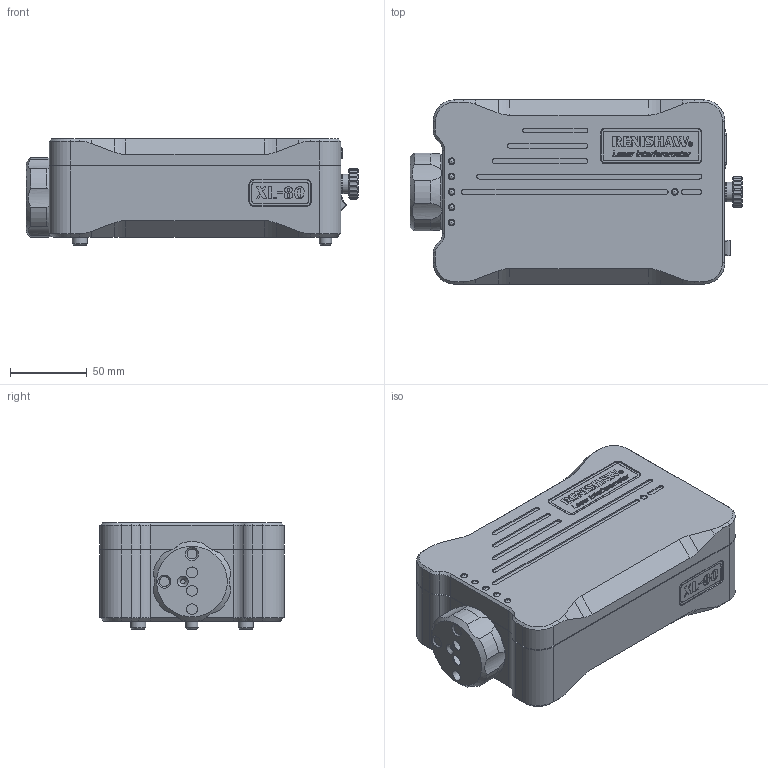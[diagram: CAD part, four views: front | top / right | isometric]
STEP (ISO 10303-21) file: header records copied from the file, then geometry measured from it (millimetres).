
FILE_DESCRIPTION(/* description */ (''),/* implementation_level */ '2;1');
FILE_NAME(/* name */ 'LA-9908-0400-A XL80 ASSEMBLY.stp',/* time_stamp */ '2010-01-27T08:35:00+00:00',/* author */ (''),/* organization */ (''),/* preprocessor_version */ 'ST-DEVELOPER v11',/* originating_system */ 'SIEMENS UGS NX 6.0',/* authorisation */ '');
FILE_SCHEMA (('AUTOMOTIVE_DESIGN { 1 0 10303 214 1 1 1 1 }'));
Products named in the file (1): mm119FB2wcnf
Bounding box: 216.26 x 120 x 69.33 mm (x, y, z)
Volume: 1388995.2 mm3; surface area: 154961.6 mm2
Topology: 3 solids, 3 shells, 8706 faces, 23381 edges, 15552 vertices
Faces by surface type: plane 5439, extrusion 2648, cylinder 507, cone 76, torus 14, bspline 12, sphere 10
Full cylindrical faces by diameter (mm): 1 x1, 1.25 x4, 1.8 x2, 2 x1, 2.5 x1, 3 x2, 3.4 x9, 3.6 x6, 3.838 x4, 4.3 x4, 4.5 x2, 6.25 x1, 7 x5, 7.15 x2, 7.6 x4, 8 x5, 8.15 x1, 8.5 x1, 9 x1, 10 x2, 11.2 x1, 11.6 x1, 12.7 x2, 14 x1, 24.83 x1, 28 x1, 46 x1, 46.5 x1
Entity records: 340157 total; most frequent: CARTESIAN_POINT 71581, ORIENTED_EDGE 46356, DIRECTION 33513, EDGE_CURVE 23178, VECTOR 19381, LINE 16733, VERTEX_POINT 15486, EDGE_LOOP 9722
